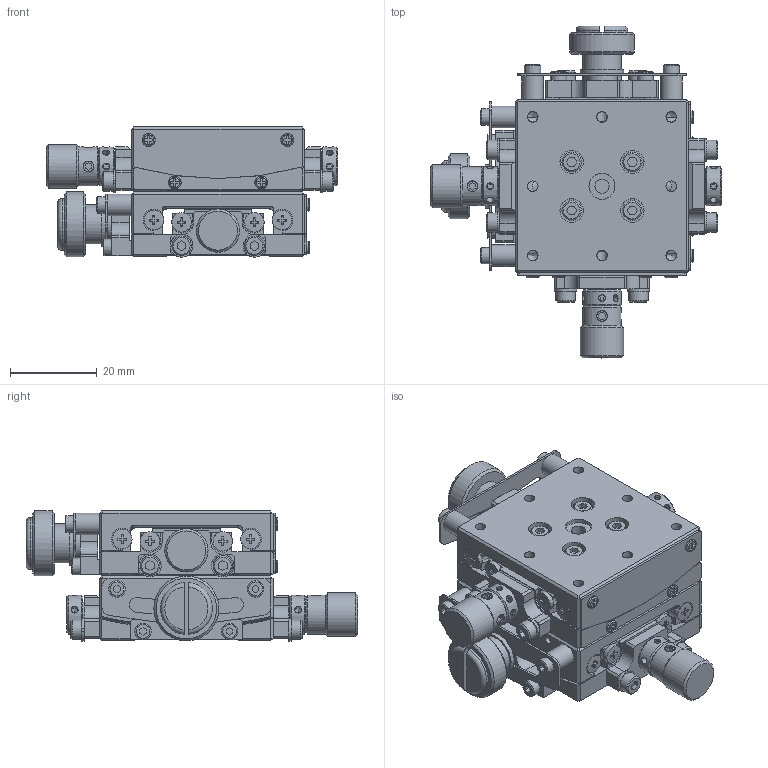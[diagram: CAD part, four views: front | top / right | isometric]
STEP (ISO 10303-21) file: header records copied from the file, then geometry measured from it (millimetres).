
FILE_DESCRIPTION((''),'2;1');
FILE_NAME('Z:\1図面ﾃﾞｰﾀ\2_OpticalHard\01_国内製品\1_Stags\GOHT\40\GOHT-40B60R\GOHT-40B60R.stp','2008-12-05T18:23:55',('kawashima'),(''),'Autodesk Inventor 2008','Autodesk Inventor 2008','');
FILE_SCHEMA(('AUTOMOTIVE_DESIGN { 1 0 10303 214 1 1 1 1 }'));
Length unit declared in the file: millimetre
Products named in the file (4): GOHT40B60R-M02-08001-S17; GOHT40B60R-M02-08001-S14; GOHT40B60R-M02-08001-S16; GOHT40B60R-M02-08001-S13
Assembly tree (3 placements, depth 2):
  GOHT40B60R-M02-08001-S17
    GOHT40B60R-M02-08001-S14
    GOHT40B60R-M02-08001-S16
    GOHT40B60R-M02-08001-S13
Bounding box: 67.2 x 76.6 x 30.03 mm (x, y, z)
Volume: 48715.9 mm3; surface area: 36148.8 mm2
Topology: 122 solids, 142 shells, 2266 faces, 5533 edges, 3573 vertices
Faces by surface type: plane 1323, bspline 362, cylinder 347, cone 150, sphere 52, torus 32
Full cylindrical faces by diameter (mm): 1.5 x16, 1.567 x8, 2 x18, 2.459 x4, 2.5 x24, 3 x4, 3.5 x8, 3.8 x8, 4 x15, 4.2 x2, 4.5 x32, 5 x4, 5.28 x8, 5.4 x2, 5.5 x4, 5.8 x6, 6 x10, 6.72 x8, 7 x2, 9 x8, 10 x4, 15 x2
Entity records: 71039 total; most frequent: CARTESIAN_POINT 22385, DIRECTION 9736, ORIENTED_EDGE 9034, EDGE_CURVE 4517, AXIS2_PLACEMENT_3D 3586, VERTEX_POINT 3263, EDGE_LOOP 3202, VECTOR 2564
